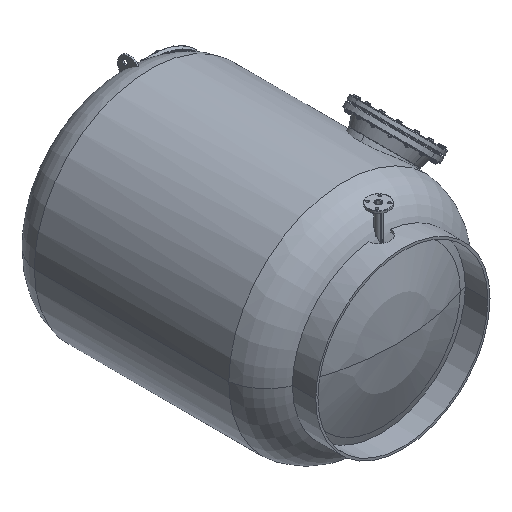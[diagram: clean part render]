
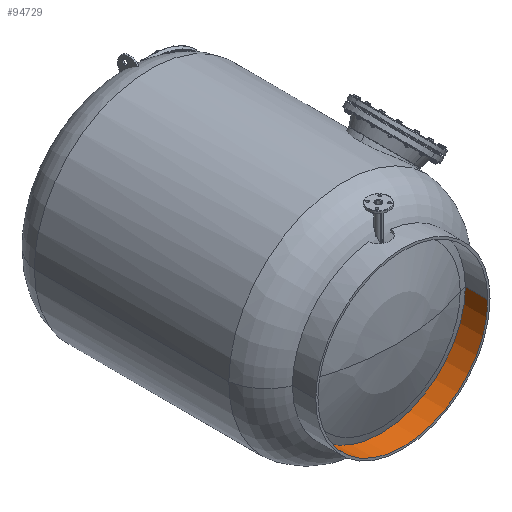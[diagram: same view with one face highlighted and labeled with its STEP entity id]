
A CAD part, isometric view. The second image highlights one B-rep face of the part: STEP entity #94729.
In plain terms, the highlighted cylindrical face has radius 600 mm (diameter 1200 mm), a partial arc.
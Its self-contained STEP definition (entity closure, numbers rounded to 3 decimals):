
#252 = EDGE_CURVE ( 'NONE', #106688, #14130, #73929, .T. ) ;
#1784 = CYLINDRICAL_SURFACE ( 'NONE', #11826, 600. ) ;
#3589 = VERTEX_POINT ( 'NONE', #61078 ) ;
#4054 = DIRECTION ( 'NONE',  ( 0., -1., 0. ) ) ;
#4667 = CARTESIAN_POINT ( 'NONE',  ( 15., 165.5, -615.057 ) ) ;
#5093 = CARTESIAN_POINT ( 'NONE',  ( 615., 165.5, -615.057 ) ) ;
#8015 = CARTESIAN_POINT ( 'NONE',  ( 15., 6.2, -615.057 ) ) ;
#10799 = AXIS2_PLACEMENT_3D ( 'NONE', #50819, #24135, #43413 ) ;
#11826 = AXIS2_PLACEMENT_3D ( 'NONE', #81329, #4054, #73391 ) ;
#14130 = VERTEX_POINT ( 'NONE', #90514 ) ;
#20096 = ORIENTED_EDGE ( 'NONE', *, *, #88492, .T. ) ;
#22303 = LINE ( 'NONE', #4667, #43504 ) ;
#22909 = CARTESIAN_POINT ( 'NONE',  ( 1215., 165.5, -615.057 ) ) ;
#23525 = EDGE_LOOP ( 'NONE', ( #20096, #99407, #97478, #84090 ) ) ;
#24135 = DIRECTION ( 'NONE',  ( 0., 1., 0. ) ) ;
#39745 = DIRECTION ( 'NONE',  ( 1., 0., 0. ) ) ;
#43413 = DIRECTION ( 'NONE',  ( 1., 0., 0. ) ) ;
#43504 = VECTOR ( 'NONE', #98553, 1000. ) ;
#50819 = CARTESIAN_POINT ( 'NONE',  ( 615., 6.2, -615.057 ) ) ;
#57881 = CIRCLE ( 'NONE', #57969, 600. ) ;
#57969 = AXIS2_PLACEMENT_3D ( 'NONE', #5093, #90960, #39745 ) ;
#61078 = CARTESIAN_POINT ( 'NONE',  ( 15., 165.5, -615.057 ) ) ;
#64284 = CARTESIAN_POINT ( 'NONE',  ( 1215., 165.5, -615.057 ) ) ;
#64584 = EDGE_CURVE ( 'NONE', #14130, #95549, #81471, .T. ) ;
#64884 = EDGE_CURVE ( 'NONE', #3589, #95549, #22303, .T. ) ;
#73391 = DIRECTION ( 'NONE',  ( 1., 0., 0. ) ) ;
#73929 = LINE ( 'NONE', #64284, #111236 ) ;
#79675 = FACE_OUTER_BOUND ( 'NONE', #23525, .T. ) ;
#81329 = CARTESIAN_POINT ( 'NONE',  ( 615., 0., -615.057 ) ) ;
#81471 = CIRCLE ( 'NONE', #10799, 600. ) ;
#84090 = ORIENTED_EDGE ( 'NONE', *, *, #252, .F. ) ;
#88492 = EDGE_CURVE ( 'NONE', #106688, #3589, #57881, .T. ) ;
#90514 = CARTESIAN_POINT ( 'NONE',  ( 1215., 6.2, -615.057 ) ) ;
#90960 = DIRECTION ( 'NONE',  ( 0., 1., 0. ) ) ;
#94729 = ADVANCED_FACE ( 'NONE', ( #79675 ), #1784, .F. ) ;
#95549 = VERTEX_POINT ( 'NONE', #8015 ) ;
#97478 = ORIENTED_EDGE ( 'NONE', *, *, #64584, .F. ) ;
#98553 = DIRECTION ( 'NONE',  ( 0., -1., 0. ) ) ;
#99407 = ORIENTED_EDGE ( 'NONE', *, *, #64884, .T. ) ;
#106688 = VERTEX_POINT ( 'NONE', #22909 ) ;
#108697 = DIRECTION ( 'NONE',  ( 0., -1., 0. ) ) ;
#111236 = VECTOR ( 'NONE', #108697, 1000. ) ;
